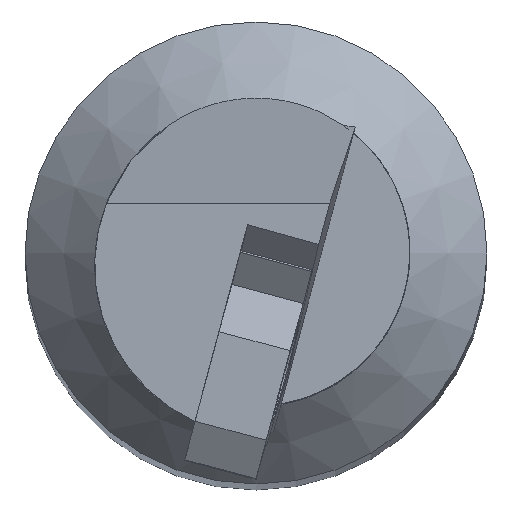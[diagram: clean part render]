
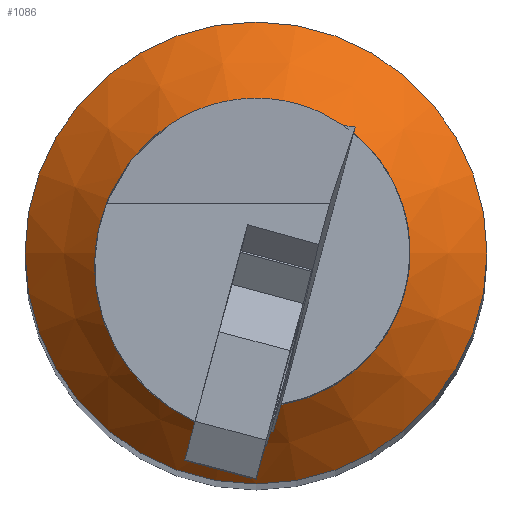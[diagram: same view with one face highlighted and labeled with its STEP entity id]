
A CAD part, top view. The second image highlights one B-rep face of the part: STEP entity #1086.
In plain terms, the highlighted conical face has half-angle 45 degrees and reference radius 6.35 mm.
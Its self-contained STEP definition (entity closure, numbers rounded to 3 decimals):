
#7 = ORIENTED_EDGE ( 'NONE', *, *, #1101, .F. ) ;
#122 = CARTESIAN_POINT ( 'NONE',  ( 0., 0., -31.56 ) ) ;
#150 = VERTEX_POINT ( 'NONE', #500 ) ;
#210 = DIRECTION ( 'NONE',  ( 1., 0., 0. ) ) ;
#246 = CIRCLE ( 'NONE', #379, 6.35 ) ;
#377 = FACE_BOUND ( 'NONE', #660, .T. ) ;
#379 = AXIS2_PLACEMENT_3D ( 'NONE', #122, #1425, #890 ) ;
#389 = CARTESIAN_POINT ( 'NONE',  ( 6.35, 0., -31.56 ) ) ;
#500 = CARTESIAN_POINT ( 'NONE',  ( 9.525, 0., -34.735 ) ) ;
#508 = ORIENTED_EDGE ( 'NONE', *, *, #807, .T. ) ;
#536 = CARTESIAN_POINT ( 'NONE',  ( 0., 0., -34.735 ) ) ;
#549 = AXIS2_PLACEMENT_3D ( 'NONE', #536, #1396, #210 ) ;
#660 = EDGE_LOOP ( 'NONE', ( #7 ) ) ;
#662 = FACE_OUTER_BOUND ( 'NONE', #1353, .T. ) ;
#755 = AXIS2_PLACEMENT_3D ( 'NONE', #869, #1420, #1217 ) ;
#807 = EDGE_CURVE ( 'NONE', #150, #150, #879, .T. ) ;
#869 = CARTESIAN_POINT ( 'NONE',  ( 0., 0., -31.56 ) ) ;
#879 = CIRCLE ( 'NONE', #549, 9.525 ) ;
#888 = CONICAL_SURFACE ( 'NONE', #755, 6.35, 0.785 ) ;
#890 = DIRECTION ( 'NONE',  ( 1., 0., 0. ) ) ;
#1086 = ADVANCED_FACE ( 'NONE', ( #662, #377 ), #888, .T. ) ;
#1101 = EDGE_CURVE ( 'NONE', #1324, #1324, #246, .T. ) ;
#1217 = DIRECTION ( 'NONE',  ( -1., 0., 0. ) ) ;
#1324 = VERTEX_POINT ( 'NONE', #389 ) ;
#1353 = EDGE_LOOP ( 'NONE', ( #508 ) ) ;
#1396 = DIRECTION ( 'NONE',  ( 0., 0., 1. ) ) ;
#1420 = DIRECTION ( 'NONE',  ( 0., 0., -1. ) ) ;
#1425 = DIRECTION ( 'NONE',  ( 0., 0., 1. ) ) ;
